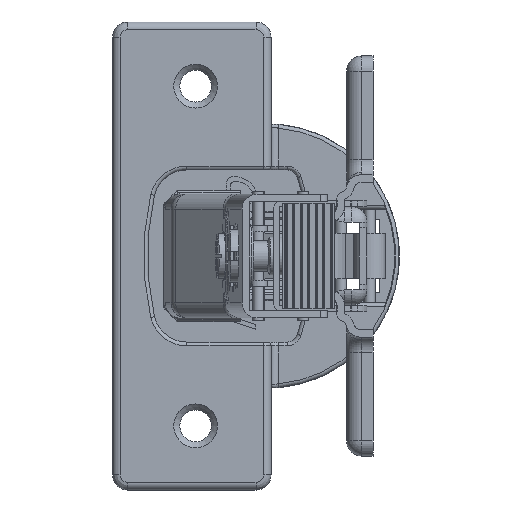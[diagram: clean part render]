
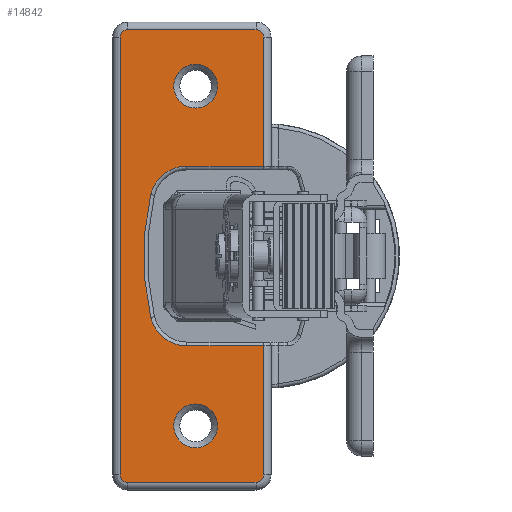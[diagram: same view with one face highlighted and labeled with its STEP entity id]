
A CAD part, left-side view. The second image highlights one B-rep face of the part: STEP entity #14842.
In plain terms, the highlighted planar face has unit normal (-1, 0, 0) as drawn and (0.158, 0.987, 0) by its records, which use the part's own axes.
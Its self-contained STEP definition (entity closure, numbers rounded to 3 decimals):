
#446=FACE_BOUND('',#2966,.T.);
#447=FACE_BOUND('',#2967,.T.);
#1183=CIRCLE('',#15816,2.9);
#1185=CIRCLE('',#15819,2.9);
#1213=CIRCLE('',#15860,4.9);
#1216=CIRCLE('',#15864,34.9);
#1219=CIRCLE('',#15868,4.9);
#1326=CIRCLE('',#16059,1.);
#1330=CIRCLE('',#16064,1.);
#1334=CIRCLE('',#16069,1.);
#1338=CIRCLE('',#16074,1.);
#2103=FACE_OUTER_BOUND('',#2965,.T.);
#2965=EDGE_LOOP('',(#11480,#11481,#11482,#11483,#11484,#11485,#11486,#11487,
#11488,#11489,#11490,#11491,#11492,#11493));
#2966=EDGE_LOOP('',(#11494));
#2967=EDGE_LOOP('',(#11495));
#3910=LINE('',#24315,#5072);
#3912=LINE('',#24339,#5074);
#3997=LINE('',#24765,#5159);
#3998=LINE('',#24784,#5160);
#4000=LINE('',#24804,#5162);
#4002=LINE('',#24824,#5164);
#4004=LINE('',#24840,#5166);
#5072=VECTOR('',#18605,10.172);
#5074=VECTOR('',#18635,10.172);
#5159=VECTOR('',#19092,17.1);
#5160=VECTOR('',#19103,17.);
#5162=VECTOR('',#19115,58.);
#5164=VECTOR('',#19127,17.);
#5166=VECTOR('',#19137,17.1);
#6272=VERTEX_POINT('',#24089);
#6274=VERTEX_POINT('',#24094);
#6310=VERTEX_POINT('',#24307);
#6312=VERTEX_POINT('',#24313);
#6314=VERTEX_POINT('',#24319);
#6316=VERTEX_POINT('',#24325);
#6318=VERTEX_POINT('',#24331);
#6320=VERTEX_POINT('',#24337);
#6428=VERTEX_POINT('',#24763);
#6430=VERTEX_POINT('',#24776);
#6432=VERTEX_POINT('',#24782);
#6434=VERTEX_POINT('',#24796);
#6436=VERTEX_POINT('',#24802);
#6438=VERTEX_POINT('',#24816);
#6440=VERTEX_POINT('',#24822);
#6441=VERTEX_POINT('',#24835);
#7924=EDGE_CURVE('',#6272,#6272,#1183,.T.);
#7926=EDGE_CURVE('',#6274,#6274,#1185,.T.);
#7977=EDGE_CURVE('',#6312,#6310,#3910,.T.);
#7980=EDGE_CURVE('',#6314,#6312,#1213,.T.);
#7983=EDGE_CURVE('',#6316,#6314,#1216,.T.);
#7986=EDGE_CURVE('',#6318,#6316,#1219,.T.);
#7989=EDGE_CURVE('',#6320,#6318,#3912,.T.);
#8184=EDGE_CURVE('',#6428,#6320,#3997,.T.);
#8186=EDGE_CURVE('',#6430,#6428,#1326,.T.);
#8189=EDGE_CURVE('',#6432,#6430,#3998,.T.);
#8192=EDGE_CURVE('',#6434,#6432,#1330,.T.);
#8195=EDGE_CURVE('',#6436,#6434,#4000,.T.);
#8198=EDGE_CURVE('',#6438,#6436,#1334,.T.);
#8201=EDGE_CURVE('',#6440,#6438,#4002,.T.);
#8204=EDGE_CURVE('',#6441,#6440,#1338,.T.);
#8206=EDGE_CURVE('',#6310,#6441,#4004,.T.);
#11480=ORIENTED_EDGE('',*,*,#7989,.F.);
#11481=ORIENTED_EDGE('',*,*,#8184,.F.);
#11482=ORIENTED_EDGE('',*,*,#8186,.F.);
#11483=ORIENTED_EDGE('',*,*,#8189,.F.);
#11484=ORIENTED_EDGE('',*,*,#8192,.F.);
#11485=ORIENTED_EDGE('',*,*,#8195,.F.);
#11486=ORIENTED_EDGE('',*,*,#8198,.F.);
#11487=ORIENTED_EDGE('',*,*,#8201,.F.);
#11488=ORIENTED_EDGE('',*,*,#8204,.F.);
#11489=ORIENTED_EDGE('',*,*,#8206,.F.);
#11490=ORIENTED_EDGE('',*,*,#7977,.F.);
#11491=ORIENTED_EDGE('',*,*,#7980,.F.);
#11492=ORIENTED_EDGE('',*,*,#7983,.F.);
#11493=ORIENTED_EDGE('',*,*,#7986,.F.);
#11494=ORIENTED_EDGE('',*,*,#7924,.T.);
#11495=ORIENTED_EDGE('',*,*,#7926,.T.);
#13359=PLANE('',#16107);
#14842=ADVANCED_FACE('',(#2103,#446,#447),#13359,.F.);
#15816=AXIS2_PLACEMENT_3D('',#24090,#18506,#18507);
#15819=AXIS2_PLACEMENT_3D('',#24095,#18512,#18513);
#15860=AXIS2_PLACEMENT_3D('',#24321,#18611,#18612);
#15864=AXIS2_PLACEMENT_3D('',#24327,#18619,#18620);
#15868=AXIS2_PLACEMENT_3D('',#24333,#18627,#18628);
#16059=AXIS2_PLACEMENT_3D('',#24778,#19095,#19096);
#16064=AXIS2_PLACEMENT_3D('',#24798,#19107,#19108);
#16069=AXIS2_PLACEMENT_3D('',#24818,#19119,#19120);
#16074=AXIS2_PLACEMENT_3D('',#24837,#19131,#19132);
#16107=AXIS2_PLACEMENT_3D('',#24916,#19223,#19224);
#18506=DIRECTION('center_axis',(-0.158,-0.987,0.));
#18507=DIRECTION('ref_axis',(0.987,-0.158,0.));
#18512=DIRECTION('center_axis',(-0.158,-0.987,0.));
#18513=DIRECTION('ref_axis',(0.987,-0.158,0.));
#18605=DIRECTION('',(-0.987,0.158,0.));
#18611=DIRECTION('center_axis',(0.158,0.987,0.));
#18612=DIRECTION('ref_axis',(0.611,-0.098,-0.785));
#18619=DIRECTION('center_axis',(0.158,0.987,0.));
#18620=DIRECTION('ref_axis',(0.987,-0.158,0.));
#18627=DIRECTION('center_axis',(0.158,0.987,0.));
#18628=DIRECTION('ref_axis',(0.611,-0.098,0.785));
#18635=DIRECTION('',(0.987,-0.158,0.));
#19092=DIRECTION('',(0.,0.,-1.));
#19095=DIRECTION('center_axis',(-0.158,-0.987,0.));
#19096=DIRECTION('ref_axis',(-0.698,0.112,0.707));
#19103=DIRECTION('',(-0.987,0.158,0.));
#19107=DIRECTION('center_axis',(-0.158,-0.987,0.));
#19108=DIRECTION('ref_axis',(0.698,-0.112,0.707));
#19115=DIRECTION('',(0.,0.,1.));
#19119=DIRECTION('center_axis',(-0.158,-0.987,0.));
#19120=DIRECTION('ref_axis',(0.698,-0.112,-0.707));
#19127=DIRECTION('',(0.987,-0.158,0.));
#19131=DIRECTION('center_axis',(-0.158,-0.987,0.));
#19132=DIRECTION('ref_axis',(-0.698,0.112,-0.707));
#19137=DIRECTION('',(0.,0.,-1.));
#19223=DIRECTION('center_axis',(-0.158,-0.987,0.));
#19224=DIRECTION('ref_axis',(0.,0.,-1.));
#24089=CARTESIAN_POINT('',(98.105,17.053,-22.5));
#24090=CARTESIAN_POINT('Origin',(95.241,17.511,-22.5));
#24094=CARTESIAN_POINT('',(98.105,17.053,22.5));
#24095=CARTESIAN_POINT('Origin',(95.241,17.511,22.5));
#24307=CARTESIAN_POINT('',(86.355,18.934,-11.9));
#24313=CARTESIAN_POINT('',(96.399,17.326,-11.9));
#24315=CARTESIAN_POINT('',(90.121,18.331,-11.9));
#24319=CARTESIAN_POINT('',(101.103,16.572,-8.143));
#24321=CARTESIAN_POINT('Origin',(96.399,17.326,-7.));
#24325=CARTESIAN_POINT('',(101.103,16.572,8.143));
#24327=CARTESIAN_POINT('Origin',(67.594,21.939,0.));
#24331=CARTESIAN_POINT('',(96.399,17.326,11.9));
#24333=CARTESIAN_POINT('Origin',(96.399,17.326,7.));
#24337=CARTESIAN_POINT('',(86.355,18.934,11.9));
#24339=CARTESIAN_POINT('',(96.686,17.28,11.9));
#24763=CARTESIAN_POINT('',(86.355,18.934,29.));
#24765=CARTESIAN_POINT('',(86.355,18.934,5.7));
#24776=CARTESIAN_POINT('',(87.342,18.776,30.));
#24778=CARTESIAN_POINT('Origin',(87.342,18.776,29.));
#24782=CARTESIAN_POINT('',(104.128,16.088,30.));
#24784=CARTESIAN_POINT('',(92.158,18.005,30.));
#24796=CARTESIAN_POINT('',(105.116,15.93,29.));
#24798=CARTESIAN_POINT('Origin',(104.128,16.088,29.));
#24802=CARTESIAN_POINT('',(105.116,15.93,-29.));
#24804=CARTESIAN_POINT('',(105.116,15.93,14.5));
#24816=CARTESIAN_POINT('',(104.128,16.088,-30.));
#24818=CARTESIAN_POINT('Origin',(104.128,16.088,-29.));
#24822=CARTESIAN_POINT('',(87.342,18.776,-30.));
#24824=CARTESIAN_POINT('',(100.551,16.661,-30.));
#24835=CARTESIAN_POINT('',(86.355,18.934,-29.));
#24837=CARTESIAN_POINT('Origin',(87.342,18.776,-29.));
#24840=CARTESIAN_POINT('',(86.355,18.934,-14.5));
#24916=CARTESIAN_POINT('Origin',(96.973,17.234,0.));
